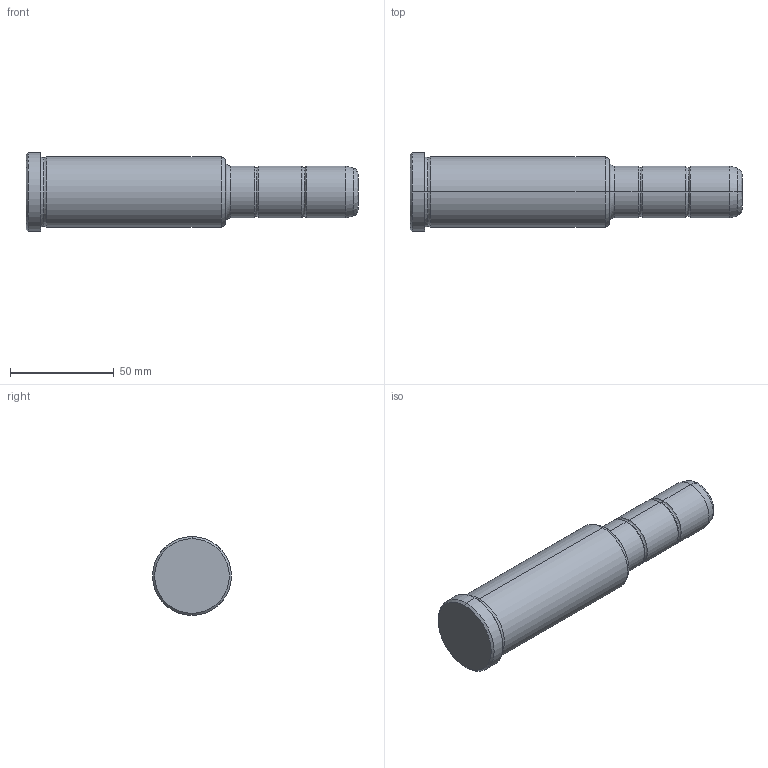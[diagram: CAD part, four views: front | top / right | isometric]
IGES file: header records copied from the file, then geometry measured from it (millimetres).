
Start section: START RECORD GO HERE.
Global section: file name: 351-25X96X160.igs; native system: DASSAULT SYSTEMES CATIA V5 R20 - www.3ds.com; preprocessor: CATIA Version 5 Release 20 ; author: Utente; organization: NB04-ASUS; date: 20210907.142051; units: millimetre
Bounding box: 160 x 38 x 38 mm (x, y, z)
Surface area: 17326.9 mm2 (no closed solid volume)
Topology: 0 solids, 0 shells, 36 faces, 204 edges, 204 vertices
Faces by surface type: revolution 32, plane 4
